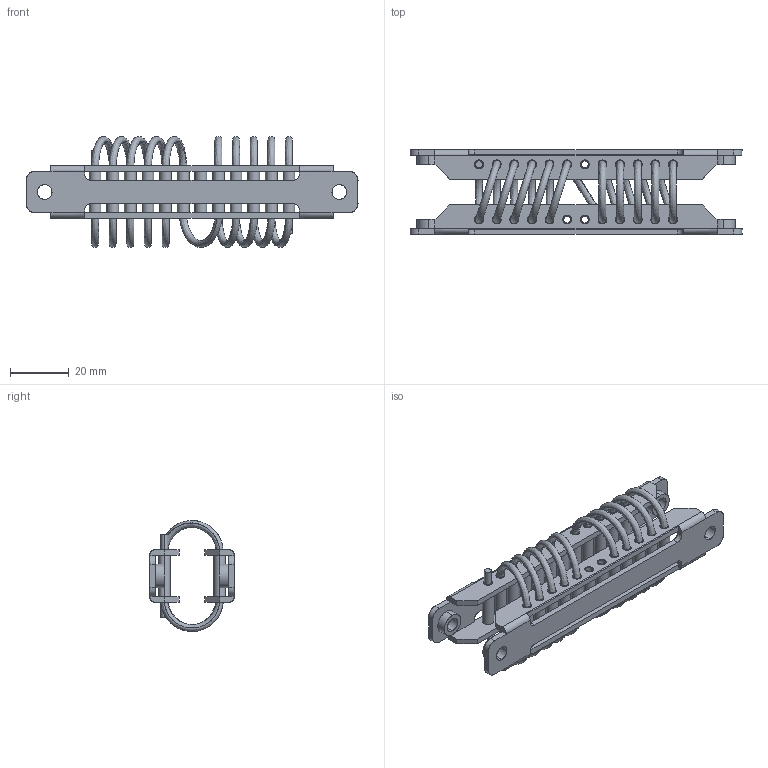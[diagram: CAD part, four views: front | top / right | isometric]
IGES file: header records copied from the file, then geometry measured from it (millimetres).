
Start section: SolidWorks IGES file using analytic representation for surfaces
Bounding box: 113 x 28.8 x 37.79 mm (x, y, z)
Surface area: 22747.8 mm2 (no closed solid volume)
Topology: 0 solids, 0 shells, 290 faces, 8152 edges, 8152 vertices
Faces by surface type: bspline 194, revolution 96
